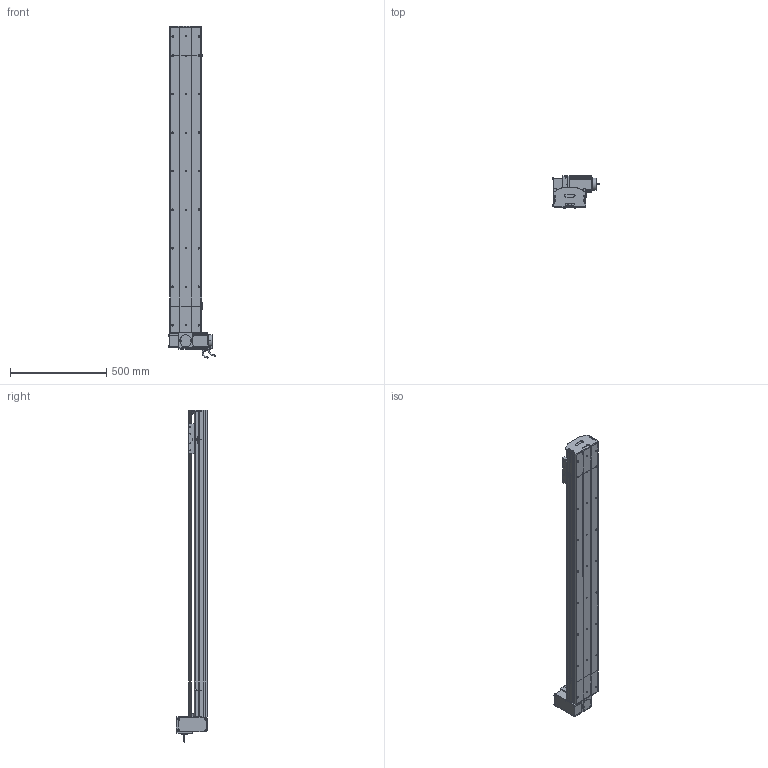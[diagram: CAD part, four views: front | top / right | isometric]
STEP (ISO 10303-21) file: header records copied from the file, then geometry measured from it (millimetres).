
FILE_DESCRIPTION (( 'STEP AP214' ), '1' );
FILE_NAME ('D17 TBH RT S1300.STEP', '2010-06-30T07:59:57', ( 'Christophe Gaillard' ), ( 'SGA' ), 'SwSTEP 2.0', 'SolidWorks 2010', '' );
FILE_SCHEMA (( 'AUTOMOTIVE_DESIGN' ));
Length unit declared in the file: millimetre
Products named in the file (40): vis M5 L16_Default; vis M5 L12_Default; guide D17; Chariot D17; Vis M5 L16-2_Default; couvercle D17B_Default; Couroie tail D17B_Default; poulie tail_Default; chariot D17S_Default; vis M5 L25_Default; vis M5 L8 90°_Default; plaque de  bout tail D17B_Default; Rail D17B; tete d''axe poulie D17B; corp tail D17B+100_Default; Tail D17B+100_Default; Renvoi RT_Default; cache arbre D17_Default; D17 TBH RT S1300; corp D17B 1300_Default; Couroie+ rail D17 Course 1300 ; course 1300 D17B_Default; corpl head D17 _Default; Head RT D17B_Default; couvercle D17B course L1300_Default; Arbre+rail head D17B; plaque de  bout head D17B RT_Default; couvercle D17B head_Default; poulie head_Default; vis M5 L5_Default; cache D17_Default; avant 90BLDC125A-640; Moteur motionking 90BLDC125A-640; couroie head D17_Default; Conecteur2_Default; codeur 90BLDC125-640; corps 90BLDC125A-640; Plaque racord D17_Default; vis M5 L70_Default; Conecteur_Default
Assembly tree (70 placements, depth 4):
  D17 TBH RT S1300
    Tail D17B+100_Default
      poulie tail_Default
      tete d''axe poulie D17B
      plaque de  bout tail D17B_Default
      vis M5 L25_Default  x2
      vis M5 L12_Default  x4
      vis M5 L8 90°_Default  x2
      corp tail D17B+100_Default
      couvercle D17B_Default
      Rail D17B
      Couroie tail D17B_Default
    Head RT D17B_Default
      couvercle D17B head_Default
      vis M5 L70_Default  x4
      cache D17_Default  x2
      vis M5 L16_Default  x2
      vis M5 L12_Default  x8
      corpl head D17 _Default
      Vis M5 L16-2_Default  x4
      couroie head D17_Default
      Arbre+rail head D17B
      vis M5 L25_Default  x2
      vis M5 L5_Default  x4
      cache arbre D17_Default
      plaque de  bout head D17B RT_Default
      poulie head_Default
      Plaque racord D17_Default
      Moteur motionking 90BLDC125A-640
        Conecteur_Default
        corps 90BLDC125A-640
        codeur 90BLDC125-640
        Conecteur2_Default
        avant 90BLDC125A-640
      Renvoi RT_Default
    chariot D17S_Default
      guide D17  x2
      Chariot D17
      vis M5 L12_Default  x4
    course 1300 D17B_Default
      Couroie+ rail D17 Course 1300 
      corp D17B 1300_Default
      couvercle D17B course L1300_Default
Bounding box: 245.2 x 166.15 x 1723.95 mm (x, y, z)
Volume: 10698340.2 mm3; surface area: 3015289 mm2
Topology: 94 solids, 94 shells, 2681 faces, 6751 edges, 4346 vertices
Faces by surface type: plane 1611, cylinder 757, bspline 136, cone 88, torus 85, sphere 4
Entity records: 83962 total; most frequent: CARTESIAN_POINT 24835, ORIENTED_EDGE 10274, DIRECTION 9750, EDGE_CURVE 5137, LINE 3440, VECTOR 3440, VERTEX_POINT 3370, AXIS2_PLACEMENT_3D 3155
